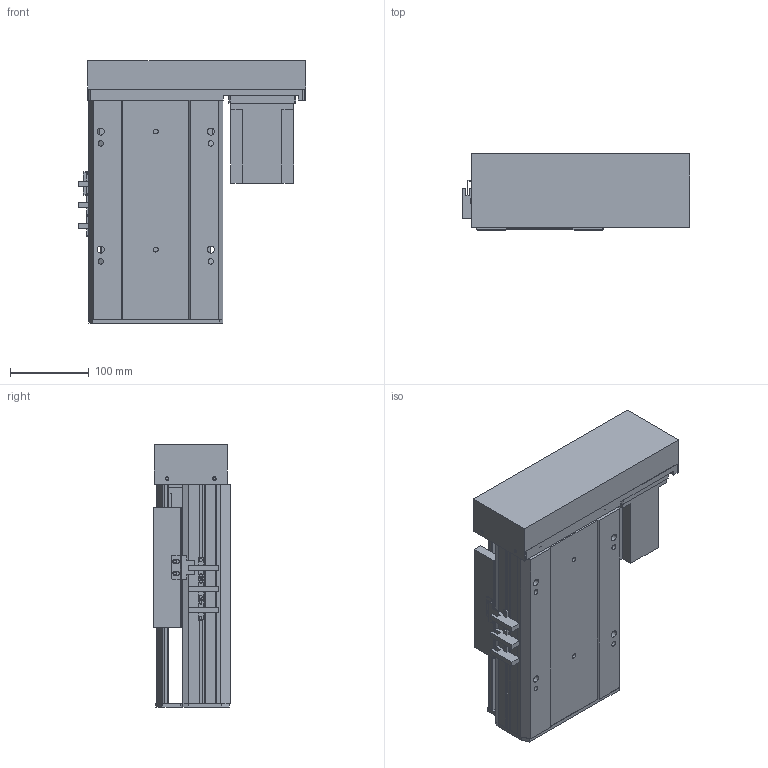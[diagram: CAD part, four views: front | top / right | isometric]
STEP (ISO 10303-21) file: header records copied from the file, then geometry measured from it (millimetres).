
FILE_DESCRIPTION (( 'STEP AP203' ), '1' );
FILE_NAME ('Y170-D10-S50-BR-P750W.STEP', '2020-01-21T11:56:05', ( '微软用户' ), ( '微软中国' ), 'SwSTEP 2.0', 'SolidWorks 2017', '' );
FILE_SCHEMA (( 'CONFIG_CONTROL_DESIGN' ));
Length unit declared in the file: millimetre
Products named in the file (12): Y170-BL-P750W楊擘啣; Y170-D10-S50-BR-P750W; 侂狟750W; EGH20賑輸_蕼偞; Y雄赽釱-耜蚾; Y170-陔遴奻裔-BR; Y-BL.BR-俋欶; Y--BL蟀諉啣-陔遴-; Y170耜裔--準---; YD-Y100-135-新外置传感挡片(通用）; 170--掛极-BR; Y100-135俋离換覜ん
Assembly tree (14 placements, depth 2):
  Y170-D10-S50-BR-P750W
    Y170耜裔--準---
    170--掛极-BR
    Y170-BL-P750W楊擘啣
    侂狟750W
    EGH20賑輸_蕼偞  x2
    Y雄赽釱-耜蚾
    Y170-陔遴奻裔-BR
    Y-BL.BR-俋欶
    Y--BL蟀諉啣-陔遴-
    YD-Y100-135-新外置传感挡片(通用）
    Y100-135俋离換覜ん  x3
Bounding box: 289 x 97 x 333.5 mm (x, y, z)
Volume: 2550625.4 mm3; surface area: 781823.4 mm2
Topology: 14 solids, 14 shells, 873 faces, 2402 edges, 1584 vertices
Faces by surface type: plane 443, cylinder 414, cone 16
Entity records: 26890 total; most frequent: CARTESIAN_POINT 4542, DIRECTION 4508, ORIENTED_EDGE 4300, EDGE_CURVE 2150, AXIS2_PLACEMENT_3D 1586, VERTEX_POINT 1428, LINE 1336, VECTOR 1336
